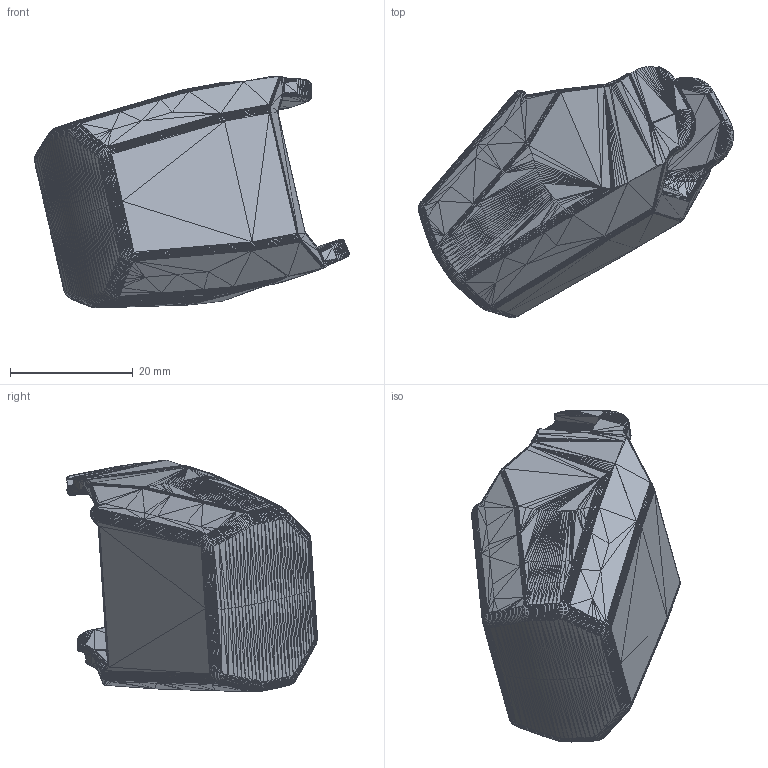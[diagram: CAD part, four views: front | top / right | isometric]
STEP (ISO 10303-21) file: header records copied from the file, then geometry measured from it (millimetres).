
FILE_DESCRIPTION((''),'2;1');
FILE_NAME('Thumb P2', '2025-03-27T08:07:32', (''), (''), 'ImageToStl.com STEP Converter','', '');
FILE_SCHEMA(('AUTOMOTIVE_DESIGN_CC2'));
Length unit declared in the file: metre
Products named in the file (1): product0
Bounding box: 51.38 x 40.94 x 37.77 mm (x, y, z)
Surface area: 6444 mm2 (no closed solid volume)
Topology: 0 solids, 14970 shells, 14970 faces, 44910 edges, 7487 vertices
Faces by surface type: plane 14970
Entity records: 359319 total; most frequent: DIRECTION 74852, ORIENTED_EDGE 44910, EDGE_CURVE 44910, LINE 44910, VECTOR 44910, AXIS2_PLACEMENT_3D 14971, STYLED_ITEM 14971, FACE_SURFACE 14970
